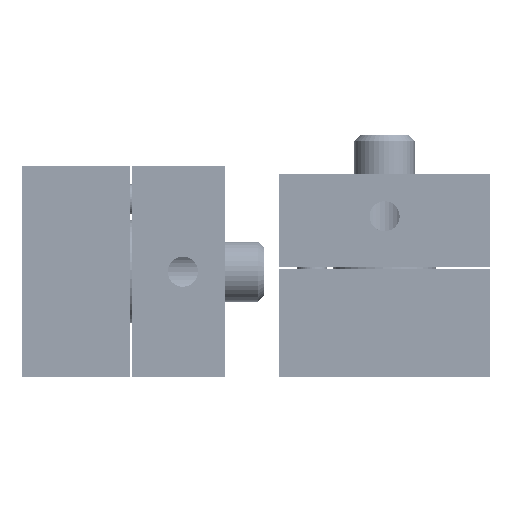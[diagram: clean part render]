
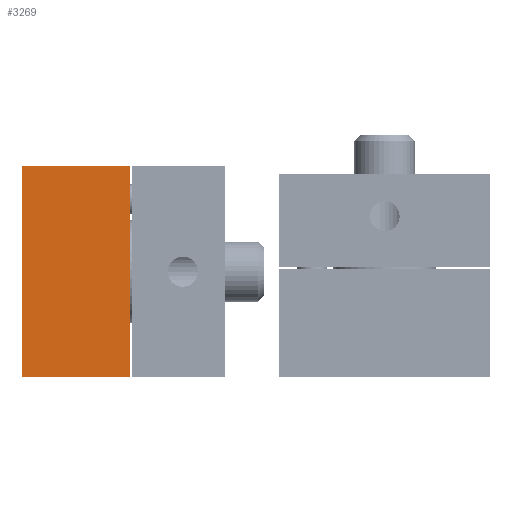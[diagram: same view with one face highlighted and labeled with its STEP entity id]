
A CAD part, left-side view. The second image highlights one B-rep face of the part: STEP entity #3269.
In plain terms, the highlighted planar face has unit normal (-1, 0, 0).
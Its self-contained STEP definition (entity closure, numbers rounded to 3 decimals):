
#3269 = ADVANCED_FACE( '', ( #8197 ), #8198, .F. );
#8197 = FACE_OUTER_BOUND( '', #16783, .T. );
#8198 = PLANE( '', #16784 );
#16783 = EDGE_LOOP( '', ( #28308, #28309, #28310, #28311 ) );
#16784 = AXIS2_PLACEMENT_3D( '', #28312, #28313, #28314 );
#28308 = ORIENTED_EDGE( '', *, *, #43086, .T. );
#28309 = ORIENTED_EDGE( '', *, *, #43087, .F. );
#28310 = ORIENTED_EDGE( '', *, *, #43088, .T. );
#28311 = ORIENTED_EDGE( '', *, *, #43089, .T. );
#28312 = CARTESIAN_POINT( '', ( -227., -59.4, -3.45 ) );
#28313 = DIRECTION( '', ( 1., 0., 0. ) );
#28314 = DIRECTION( '', ( 0., 1., 0. ) );
#43086 = EDGE_CURVE( '', #50473, #50474, #50475, .T. );
#43087 = EDGE_CURVE( '', #50476, #50474, #50477, .T. );
#43088 = EDGE_CURVE( '', #50476, #50478, #50479, .T. );
#43089 = EDGE_CURVE( '', #50478, #50473, #50480, .T. );
#50473 = VERTEX_POINT( '', #66388 );
#50474 = VERTEX_POINT( '', #66389 );
#50475 = LINE( '', #66390, #66391 );
#50476 = VERTEX_POINT( '', #66392 );
#50477 = LINE( '', #66393, #66394 );
#50478 = VERTEX_POINT( '', #66395 );
#50479 = LINE( '', #66396, #66397 );
#50480 = LINE( '', #66398, #66399 );
#66388 = CARTESIAN_POINT( '', ( -227., -58.5, -40.2 ) );
#66389 = CARTESIAN_POINT( '', ( -227., -58.5, -5.2 ) );
#66390 = CARTESIAN_POINT( '', ( -227., -58.5, -40.2 ) );
#66391 = VECTOR( '', #85942, 1000. );
#66392 = CARTESIAN_POINT( '', ( -227., -40.5, -5.2 ) );
#66393 = CARTESIAN_POINT( '', ( -227., -40.5, -5.2 ) );
#66394 = VECTOR( '', #85943, 1000. );
#66395 = CARTESIAN_POINT( '', ( -227., -40.5, -40.2 ) );
#66396 = CARTESIAN_POINT( '', ( -227., -40.5, -5.2 ) );
#66397 = VECTOR( '', #85944, 1000. );
#66398 = CARTESIAN_POINT( '', ( -227., -40.5, -40.2 ) );
#66399 = VECTOR( '', #85945, 1000. );
#85942 = DIRECTION( '', ( 0., 0., 1. ) );
#85943 = DIRECTION( '', ( 0., -1., 0. ) );
#85944 = DIRECTION( '', ( 0., 0., -1. ) );
#85945 = DIRECTION( '', ( 0., -1., 0. ) );
